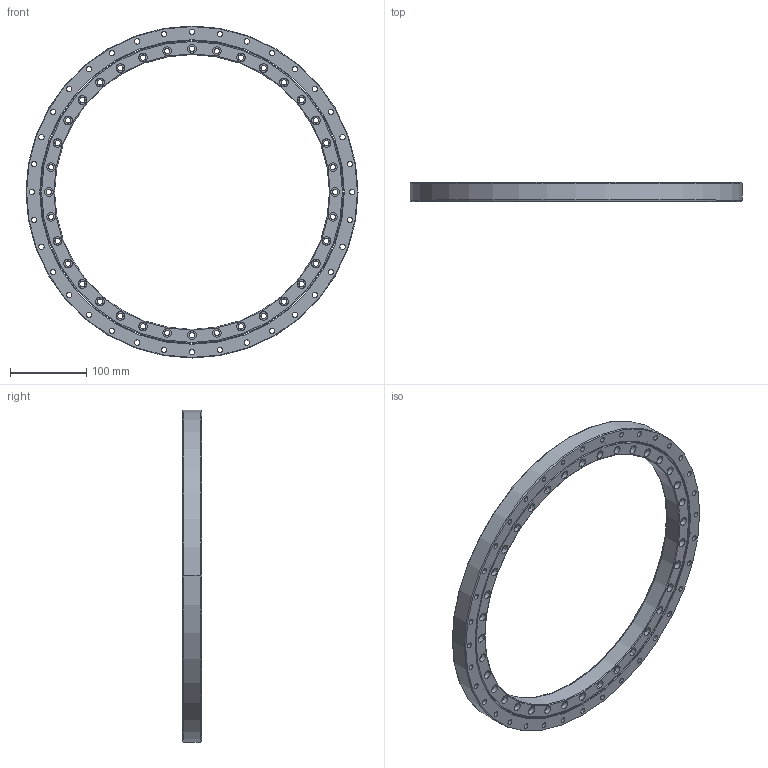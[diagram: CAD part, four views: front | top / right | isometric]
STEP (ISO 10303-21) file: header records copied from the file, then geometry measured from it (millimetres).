
FILE_DESCRIPTION((''),'2;1');
FILE_NAME('XSU080398','2015-07-02T',('Administrator'),(''),'PRO/ENGINEER BY PARAMETRIC TECHNOLOGY CORPORATION, 2010180','PRO/ENGINEER BY PARAMETRIC TECHNOLOGY CORPORATION, 2010180','');
FILE_SCHEMA(('AUTOMOTIVE_DESIGN_CC2 { 1 2 10303 214 -1 1 5 2 }'));
Length unit declared in the file: millimetre
Products named in the file (1): XSU080398
Bounding box: 435 x 25.4 x 435 mm (x, y, z)
Volume: 938734.8 mm3; surface area: 278585.1 mm2
Topology: 2 solids, 2 shells, 410 faces, 964 edges, 636 vertices
Faces by surface type: cylinder 312, plane 82, cone 12, torus 4
Entity records: 12472 total; most frequent: DIRECTION 2424, CARTESIAN_POINT 2010, ORIENTED_EDGE 1928, AXIS2_PLACEMENT_3D 1050, EDGE_CURVE 964, CIRCLE 640, VERTEX_POINT 636, EDGE_LOOP 636
